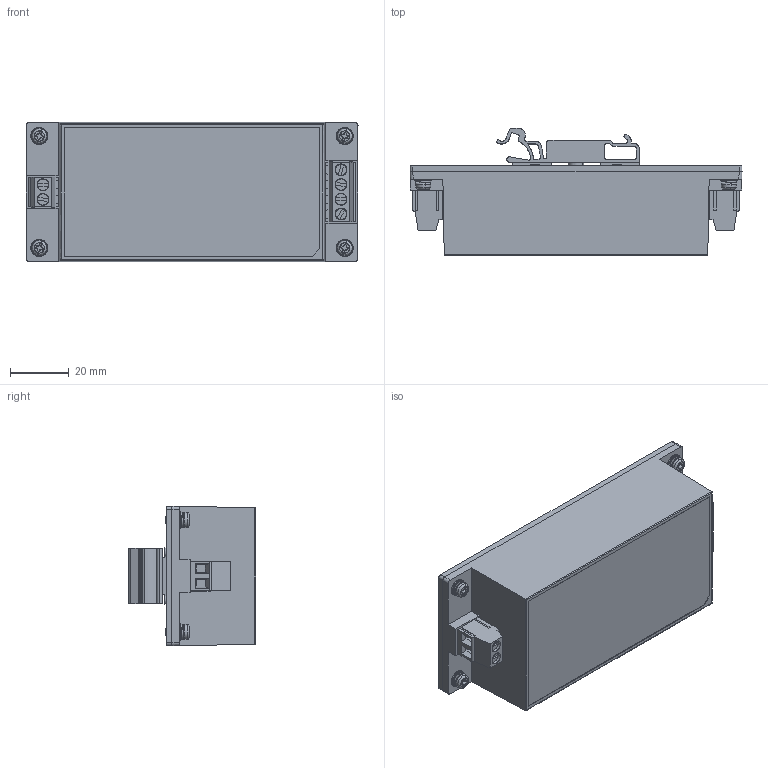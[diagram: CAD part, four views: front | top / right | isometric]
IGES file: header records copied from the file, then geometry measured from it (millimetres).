
Start section: SolidWorks IGES file using analytic representation for surfaces
Global section: file name: C:\Users\ksmith\Desktop\ECE80-SD\ECE80-SD.IGS; native system: SolidWorks 2018; preprocessor: SolidWorks 2018; author: ksmith; date: 191126.090731; units: inch
Bounding box: 113 x 43.25 x 47.5 mm (x, y, z)
Surface area: 64758.2 mm2 (no closed solid volume)
Topology: 0 solids, 0 shells, 1261 faces, 14104 edges, 14095 vertices
Faces by surface type: bspline 875, revolution 386
